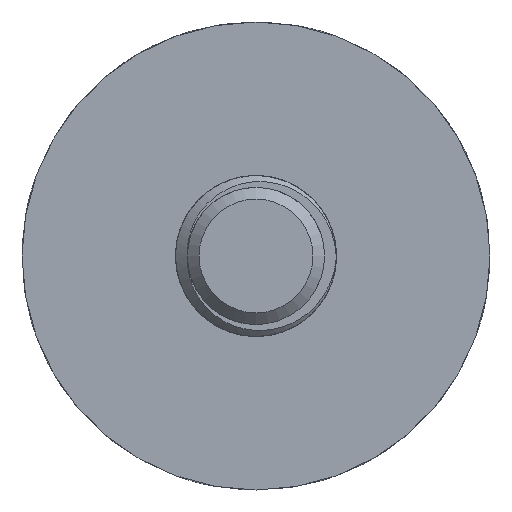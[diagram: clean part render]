
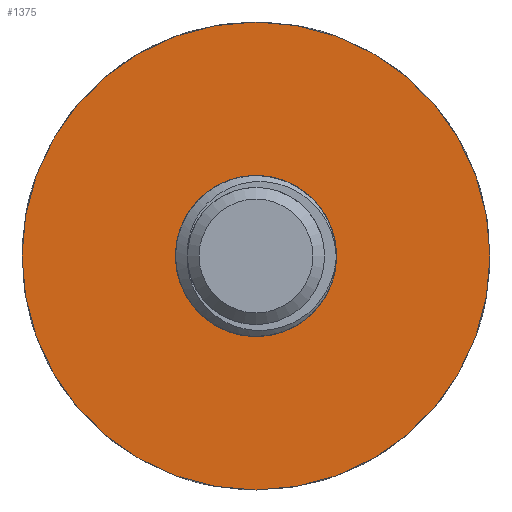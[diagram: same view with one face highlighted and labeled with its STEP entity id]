
A CAD part, left-side view. The second image highlights one B-rep face of the part: STEP entity #1375.
In plain terms, the highlighted planar face has unit normal (-1, 0, 0).
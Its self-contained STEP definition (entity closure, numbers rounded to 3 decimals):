
#32=CARTESIAN_POINT('',(30.,-0.,20.025));
#33=VERTEX_POINT('',#32);
#872=CARTESIAN_POINT('',(30.,-0.,-20.025));
#873=VERTEX_POINT('',#872);
#874=CARTESIAN_POINT('',(30.,-0.,0.));
#875=DIRECTION('',(1.,0.,0.));
#876=DIRECTION('',(0.,0.,-1.));
#877=AXIS2_PLACEMENT_3D('',#874,#875,#876);
#878=CIRCLE('',#877,20.025);
#879=EDGE_CURVE('',#33,#873,#878,.T.);
#881=CARTESIAN_POINT('',(30.,-0.,0.));
#882=DIRECTION('',(1.,0.,0.));
#883=DIRECTION('',(0.,0.,-1.));
#884=AXIS2_PLACEMENT_3D('',#881,#882,#883);
#885=CIRCLE('',#884,20.025);
#886=EDGE_CURVE('',#873,#33,#885,.T.);
#1355=CARTESIAN_POINT('',(30.,0.,0.));
#1356=DIRECTION('',(1.,0.,0.));
#1357=DIRECTION('',(0.,1.,0.));
#1358=AXIS2_PLACEMENT_3D('',#1355,#1356,#1357);
#1359=PLANE('',#1358);
#1360=CARTESIAN_POINT('',(30.,-0.,-6.9));
#1361=VERTEX_POINT('',#1360);
#1362=CARTESIAN_POINT('',(30.,-0.,0.));
#1363=DIRECTION('',(1.,0.,0.));
#1364=DIRECTION('',(0.,0.,-1.));
#1365=AXIS2_PLACEMENT_3D('',#1362,#1363,#1364);
#1366=CIRCLE('',#1365,6.9);
#1367=EDGE_CURVE('',#1361,#1361,#1366,.T.);
#1368=ORIENTED_EDGE('',*,*,#1367,.T.);
#1369=EDGE_LOOP('',(#1368));
#1370=FACE_BOUND('',#1369,.T.);
#1371=ORIENTED_EDGE('',*,*,#879,.F.);
#1372=ORIENTED_EDGE('',*,*,#886,.F.);
#1373=EDGE_LOOP('',(#1371,#1372));
#1374=FACE_BOUND('',#1373,.T.);
#1375=ADVANCED_FACE('',(#1370,#1374),#1359,.F.);
